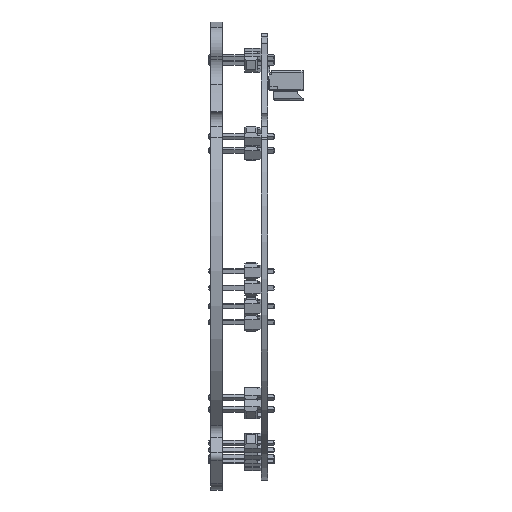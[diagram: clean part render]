
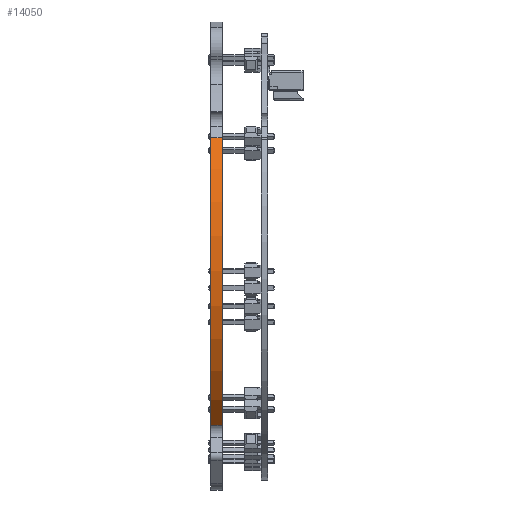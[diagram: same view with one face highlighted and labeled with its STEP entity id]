
A CAD part, left-side view. The second image highlights one B-rep face of the part: STEP entity #14050.
In plain terms, the highlighted cylindrical face has radius 34.4 mm (diameter 68.8 mm), a partial arc.
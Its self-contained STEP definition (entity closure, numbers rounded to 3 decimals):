
#324 = VERTEX_POINT ( 'NONE', #9360 ) ;
#566 = ORIENTED_EDGE ( 'NONE', *, *, #2113, .F. ) ;
#1591 = CARTESIAN_POINT ( 'NONE',  ( 23.044, -14.036, -25.541 ) ) ;
#2113 = EDGE_CURVE ( 'NONE', #6528, #21100, #4017, .T. ) ;
#2961 = CARTESIAN_POINT ( 'NONE',  ( 29.007, 1.7, 18.492 ) ) ;
#3182 = DIRECTION ( 'NONE',  ( 0., 0., -1. ) ) ;
#3302 = VECTOR ( 'NONE', #11361, 1000. ) ;
#4017 = CIRCLE ( 'NONE', #16213, 34.4 ) ;
#4623 = DIRECTION ( 'NONE',  ( 0., 1., 0. ) ) ;
#4703 = CARTESIAN_POINT ( 'NONE',  ( 29.007, 10., 18.492 ) ) ;
#4713 = AXIS2_PLACEMENT_3D ( 'NONE', #14544, #12802, #3182 ) ;
#4719 = CYLINDRICAL_SURFACE ( 'NONE', #4713, 34.4 ) ;
#6528 = VERTEX_POINT ( 'NONE', #2961 ) ;
#8282 = EDGE_CURVE ( 'NONE', #11490, #324, #21160, .T. ) ;
#9360 = CARTESIAN_POINT ( 'NONE',  ( 23.044, 0., -25.541 ) ) ;
#9985 = LINE ( 'NONE', #1591, #19590 ) ;
#11318 = CARTESIAN_POINT ( 'NONE',  ( 0., 1.7, 0. ) ) ;
#11361 = DIRECTION ( 'NONE',  ( 0., -1., 0. ) ) ;
#11483 = FACE_OUTER_BOUND ( 'NONE', #13497, .T. ) ;
#11490 = VERTEX_POINT ( 'NONE', #14825 ) ;
#11916 = EDGE_CURVE ( 'NONE', #324, #21100, #9985, .T. ) ;
#12639 = CARTESIAN_POINT ( 'NONE',  ( 23.044, 1.7, -25.541 ) ) ;
#12802 = DIRECTION ( 'NONE',  ( 0., -1., 0. ) ) ;
#13497 = EDGE_LOOP ( 'NONE', ( #566, #15103, #15114, #20639 ) ) ;
#14050 = ADVANCED_FACE ( 'NONE', ( #11483 ), #4719, .T. ) ;
#14544 = CARTESIAN_POINT ( 'NONE',  ( 0., 1.7, 0. ) ) ;
#14825 = CARTESIAN_POINT ( 'NONE',  ( 29.007, 0., 18.492 ) ) ;
#15103 = ORIENTED_EDGE ( 'NONE', *, *, #16688, .T. ) ;
#15114 = ORIENTED_EDGE ( 'NONE', *, *, #8282, .T. ) ;
#16213 = AXIS2_PLACEMENT_3D ( 'NONE', #11318, #17975, #19500 ) ;
#16258 = AXIS2_PLACEMENT_3D ( 'NONE', #19572, #4623, #20894 ) ;
#16688 = EDGE_CURVE ( 'NONE', #6528, #11490, #19651, .T. ) ;
#17857 = DIRECTION ( 'NONE',  ( 0., 1., 0. ) ) ;
#17975 = DIRECTION ( 'NONE',  ( 0., 1., 0. ) ) ;
#19500 = DIRECTION ( 'NONE',  ( 0., 0., 1. ) ) ;
#19572 = CARTESIAN_POINT ( 'NONE',  ( 0., 0., 0. ) ) ;
#19590 = VECTOR ( 'NONE', #17857, 1000. ) ;
#19651 = LINE ( 'NONE', #4703, #3302 ) ;
#20639 = ORIENTED_EDGE ( 'NONE', *, *, #11916, .T. ) ;
#20894 = DIRECTION ( 'NONE',  ( 0., 0., 1. ) ) ;
#21100 = VERTEX_POINT ( 'NONE', #12639 ) ;
#21160 = CIRCLE ( 'NONE', #16258, 34.4 ) ;
